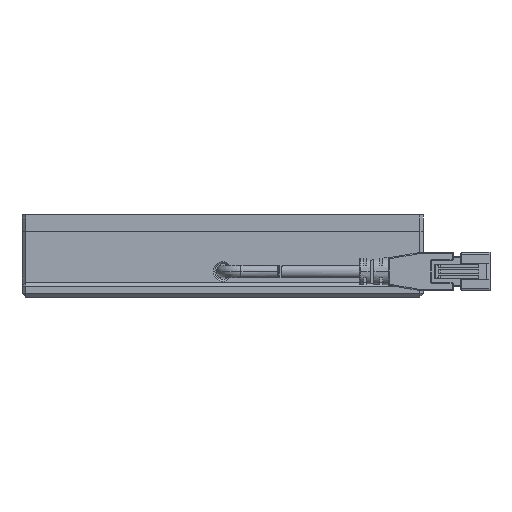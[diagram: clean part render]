
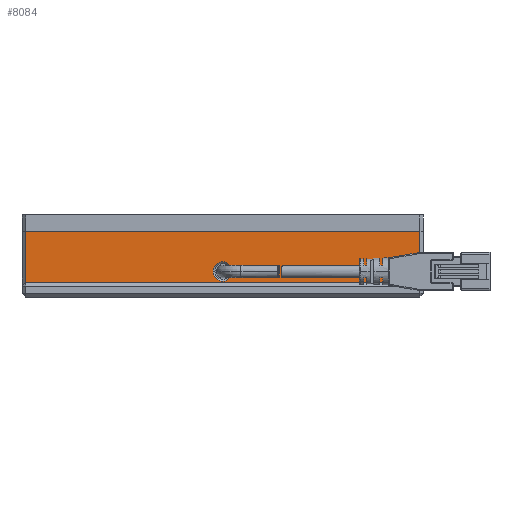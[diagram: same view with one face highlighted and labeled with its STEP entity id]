
A CAD part, front view. The second image highlights one B-rep face of the part: STEP entity #8084.
In plain terms, the highlighted planar face has unit normal (0, -1, 0).
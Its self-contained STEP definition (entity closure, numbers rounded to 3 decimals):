
#26 = VERTEX_POINT ( 'NONE', #868 ) ;
#322 = VERTEX_POINT ( 'NONE', #2028 ) ;
#575 = LINE ( 'NONE', #4264, #6155 ) ;
#754 = DIRECTION ( 'NONE',  ( 0., 1., 0. ) ) ;
#834 = EDGE_CURVE ( 'NONE', #2811, #322, #575, .T. ) ;
#868 = CARTESIAN_POINT ( 'NONE',  ( -54., -80., 18. ) ) ;
#1100 = CARTESIAN_POINT ( 'NONE',  ( -54., -80., 4. ) ) ;
#1178 = ORIENTED_EDGE ( 'NONE', *, *, #4458, .T. ) ;
#1209 = ORIENTED_EDGE ( 'NONE', *, *, #834, .T. ) ;
#1237 = CIRCLE ( 'NONE', #6291, 2.65 ) ;
#1281 = AXIS2_PLACEMENT_3D ( 'NONE', #2103, #754, #4830 ) ;
#1630 = LINE ( 'NONE', #2857, #6445 ) ;
#1695 = CARTESIAN_POINT ( 'NONE',  ( 0., -80., 7. ) ) ;
#1720 = AXIS2_PLACEMENT_3D ( 'NONE', #5319, #7469, #8072 ) ;
#1733 = ORIENTED_EDGE ( 'NONE', *, *, #3359, .T. ) ;
#1850 = ORIENTED_EDGE ( 'NONE', *, *, #2125, .F. ) ;
#1964 = FACE_BOUND ( 'NONE', #8538, .T. ) ;
#2028 = CARTESIAN_POINT ( 'NONE',  ( 54., -80., 18. ) ) ;
#2103 = CARTESIAN_POINT ( 'NONE',  ( -55., -80., 18. ) ) ;
#2125 = EDGE_CURVE ( 'NONE', #26, #322, #1630, .T. ) ;
#2150 = PLANE ( 'NONE',  #1281 ) ;
#2332 = LINE ( 'NONE', #6442, #8531 ) ;
#2811 = VERTEX_POINT ( 'NONE', #5243 ) ;
#2857 = CARTESIAN_POINT ( 'NONE',  ( -55., -80., 18. ) ) ;
#3064 = ORIENTED_EDGE ( 'NONE', *, *, #5641, .T. ) ;
#3131 = CARTESIAN_POINT ( 'NONE',  ( 0., -80., 9.65 ) ) ;
#3359 = EDGE_CURVE ( 'NONE', #3601, #8348, #3920, .T. ) ;
#3601 = VERTEX_POINT ( 'NONE', #3131 ) ;
#3767 = DIRECTION ( 'NONE',  ( 0., 1., 0. ) ) ;
#3920 = CIRCLE ( 'NONE', #1720, 2.65 ) ;
#4066 = VERTEX_POINT ( 'NONE', #1100 ) ;
#4264 = CARTESIAN_POINT ( 'NONE',  ( 54., -80., 18. ) ) ;
#4285 = DIRECTION ( 'NONE',  ( 1., 0., 0. ) ) ;
#4458 = EDGE_CURVE ( 'NONE', #26, #4066, #2332, .T. ) ;
#4718 = VECTOR ( 'NONE', #8282, 1000. ) ;
#4830 = DIRECTION ( 'NONE',  ( 0., 0., 1. ) ) ;
#5243 = CARTESIAN_POINT ( 'NONE',  ( 54., -80., 4. ) ) ;
#5319 = CARTESIAN_POINT ( 'NONE',  ( 0., -80., 7. ) ) ;
#5383 = EDGE_LOOP ( 'NONE', ( #7802, #1209, #1850, #1178 ) ) ;
#5529 = EDGE_CURVE ( 'NONE', #4066, #2811, #8090, .T. ) ;
#5638 = CARTESIAN_POINT ( 'NONE',  ( -55., -80., 4. ) ) ;
#5641 = EDGE_CURVE ( 'NONE', #8348, #3601, #1237, .T. ) ;
#6155 = VECTOR ( 'NONE', #8324, 1000. ) ;
#6291 = AXIS2_PLACEMENT_3D ( 'NONE', #1695, #3767, #8394 ) ;
#6442 = CARTESIAN_POINT ( 'NONE',  ( -54., -80., 18. ) ) ;
#6445 = VECTOR ( 'NONE', #4285, 1000. ) ;
#6606 = CARTESIAN_POINT ( 'NONE',  ( 0., -80., 4.35 ) ) ;
#7469 = DIRECTION ( 'NONE',  ( 0., 1., 0. ) ) ;
#7802 = ORIENTED_EDGE ( 'NONE', *, *, #5529, .T. ) ;
#7846 = DIRECTION ( 'NONE',  ( 0., 0., -1. ) ) ;
#7956 = FACE_OUTER_BOUND ( 'NONE', #5383, .T. ) ;
#8072 = DIRECTION ( 'NONE',  ( 0., 0., 1. ) ) ;
#8084 = ADVANCED_FACE ( 'NONE', ( #1964, #7956 ), #2150, .F. ) ;
#8090 = LINE ( 'NONE', #5638, #4718 ) ;
#8282 = DIRECTION ( 'NONE',  ( 1., 0., 0. ) ) ;
#8324 = DIRECTION ( 'NONE',  ( 0., 0., 1. ) ) ;
#8348 = VERTEX_POINT ( 'NONE', #6606 ) ;
#8394 = DIRECTION ( 'NONE',  ( 0., 0., 1. ) ) ;
#8531 = VECTOR ( 'NONE', #7846, 1000. ) ;
#8538 = EDGE_LOOP ( 'NONE', ( #3064, #1733 ) ) ;
